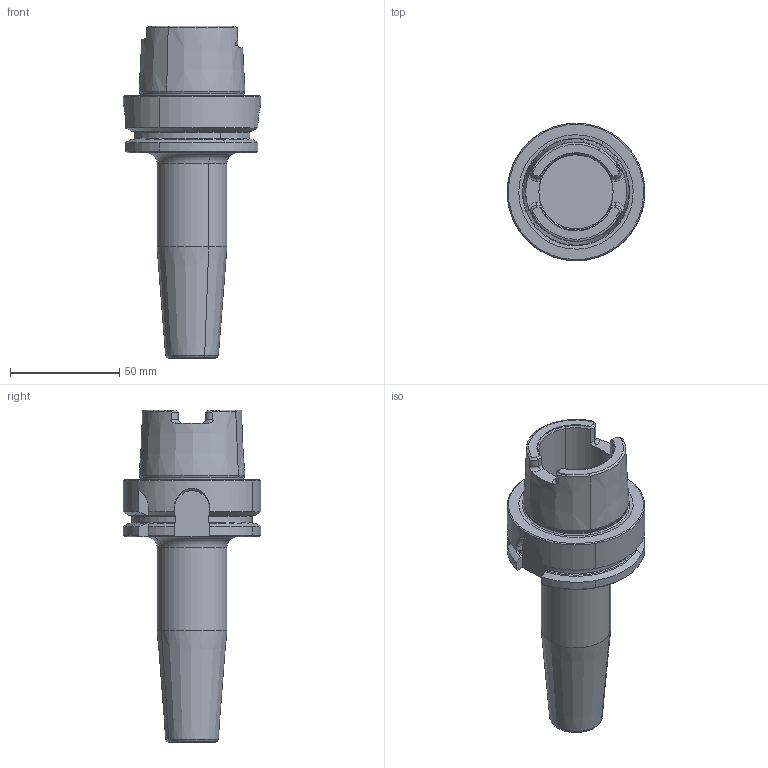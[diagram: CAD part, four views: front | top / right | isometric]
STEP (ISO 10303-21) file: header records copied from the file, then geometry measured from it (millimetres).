
FILE_DESCRIPTION(('CATIA V5 STEP Exchange','CAx-IF Rec.Pracs.--- Model Styling and Organization---1.2---2011-12-15'),'2;1');
FILE_NAME('I:\isr\design\admin8\users\tamer_s\4504021 L.stp','2014-03-31T06:33:20+00:00',('none'),('none'),'CATIA Version 5 Release 21 SP 5 (IN-10)','CATIA V5 STEP AP214','none');
FILE_SCHEMA(('AUTOMOTIVE_DESIGN { 1 0 10303 214 1 1 1 1 }'));
Length unit declared in the file: millimetre
Products named in the file (1): 60796852_0 Holder-Tool HSK A 63 SRKIN 12X120
Bounding box: 62.99 x 63 x 152 mm (x, y, z)
Volume: 157147.7 mm3; surface area: 29211.2 mm2
Topology: 1 solids, 1 shells, 142 faces, 365 edges, 228 vertices
Faces by surface type: plane 45, cone 37, cylinder 32, torus 28
Entity records: 4382 total; most frequent: CARTESIAN_POINT 1338, ORIENTED_EDGE 730, DIRECTION 448, EDGE_CURVE 365, AXIS2_PLACEMENT_3D 238, VERTEX_POINT 228, CIRCLE 153, EDGE_LOOP 145
